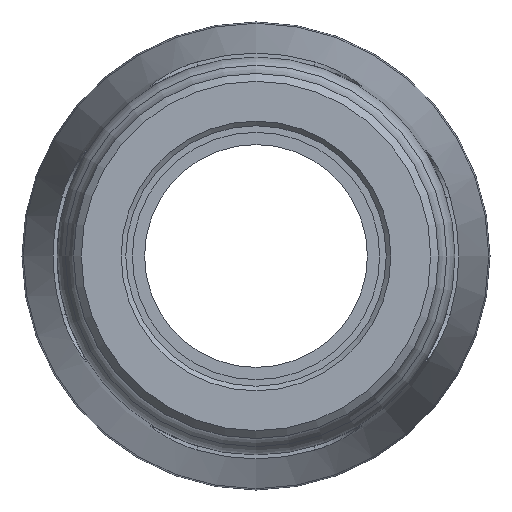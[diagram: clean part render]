
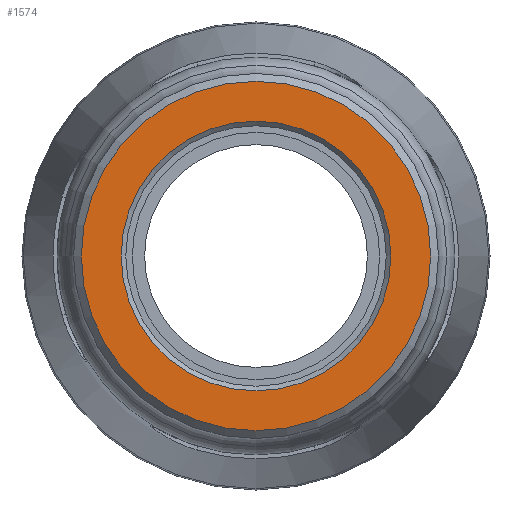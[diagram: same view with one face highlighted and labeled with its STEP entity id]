
A CAD part, left-side view. The second image highlights one B-rep face of the part: STEP entity #1574.
In plain terms, the highlighted planar face has unit normal (-1, 0, 0).
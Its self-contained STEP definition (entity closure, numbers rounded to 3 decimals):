
#24=FACE_BOUND('',#401,.T.);
#56=PLANE('',#1725);
#292=FACE_OUTER_BOUND('',#400,.T.);
#400=EDGE_LOOP('',(#1156));
#401=EDGE_LOOP('',(#1157));
#544=CIRCLE('',#1724,20.176);
#545=CIRCLE('',#1726,26.131);
#715=VERTEX_POINT('',#2792);
#716=VERTEX_POINT('',#2795);
#886=EDGE_CURVE('',#715,#715,#544,.T.);
#887=EDGE_CURVE('',#716,#716,#545,.T.);
#1156=ORIENTED_EDGE('',*,*,#887,.F.);
#1157=ORIENTED_EDGE('',*,*,#886,.F.);
#1574=ADVANCED_FACE('',(#292,#24),#56,.T.);
#1724=AXIS2_PLACEMENT_3D('',#2793,#2005,#2006);
#1725=AXIS2_PLACEMENT_3D('',#2794,#2007,#2008);
#1726=AXIS2_PLACEMENT_3D('',#2796,#2009,#2010);
#2005=DIRECTION('center_axis',(-1.,0.,0.));
#2006=DIRECTION('ref_axis',(0.,-1.,0.));
#2007=DIRECTION('center_axis',(-1.,0.,0.));
#2008=DIRECTION('ref_axis',(0.,0.,1.));
#2009=DIRECTION('center_axis',(1.,0.,0.));
#2010=DIRECTION('ref_axis',(0.,-1.,0.));
#2792=CARTESIAN_POINT('',(0.,20.176,0.));
#2793=CARTESIAN_POINT('Origin',(0.,0.,0.));
#2794=CARTESIAN_POINT('Origin',(0.,27.3,0.));
#2795=CARTESIAN_POINT('',(0.,26.131,0.));
#2796=CARTESIAN_POINT('Origin',(0.,0.,0.));
